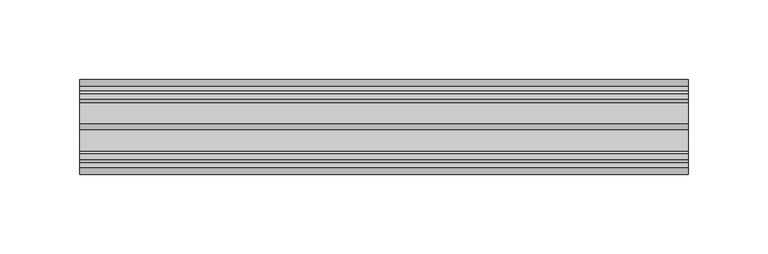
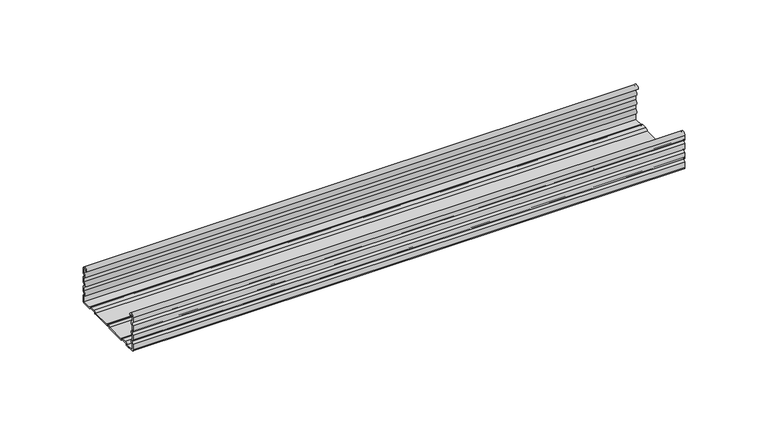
"""IFC4 building model written with IfcOpenShell, lengths in millimetres: proxy geometry, КНАУФ_Профильl ПП 60x27 : КНАУФ_Профильl ПП 60x27."""

from ifc_helpers import new_model, si_unit, point, frame, frame_2d, origin, origin_2d, place, context, project, spatial, polyline, circle_curve, trimmed, segment, composite_curve, outline, extrude, source, transform, mapped, element, save


def mechanical_equipment_167060bf(model_context):
    return source(origin(), model_context, "Body", "SweptSolid", [
        extrude(outline(composite_curve([segment(trimmed(circle_curve(frame_2d((-27.9311762, 24.93)), 1.2688238), [point((-26.6623525, 24.93))], [point((-29.2, 24.93))], True, "CARTESIAN"), True, "CONTINUOUS"), segment(polyline([(-29.2, 24.93), (-29.2, 22.1840918)]), True, "CONTINUOUS"), segment(trimmed(circle_curve(frame_2d((-30.0, 20.25)), 2.0930149), [point((-29.2, 22.1840918))], [point((-29.2, 18.3159082))], False, "CARTESIAN"), True, "CONTINUOUS"), segment(polyline([(-29.2, 18.3159082), (-29.2, 15.4340918)]), True, "CONTINUOUS"), segment(trimmed(circle_curve(frame_2d((-30.0, 13.5)), 2.0930149), [point((-29.2, 15.4340918))], [point((-29.2, 11.5659082))], False, "CARTESIAN"), True, "CONTINUOUS"), segment(polyline([(-29.2, 11.5659082), (-29.2, 8.6840918)]), True, "CONTINUOUS"), segment(trimmed(circle_curve(frame_2d((-30.0, 6.75)), 2.0930149), [point((-29.2, 8.6840918))], [point((-29.2, 4.8159082))], False, "CARTESIAN"), True, "CONTINUOUS"), segment(polyline([(-29.2, 4.8159082), (-29.2, 0.8), (-22.6228064, 0.8)]), True, "CONTINUOUS"), segment(trimmed(circle_curve(frame_2d((-20.7668677, -0.1675758)), 2.0930149), [point((-22.6228064, 0.8))], [point((-20.7668677, 1.9254391))], False, "CARTESIAN"), True, "CONTINUOUS"), segment(polyline([(-20.7668677, 1.9254391), (-17.1471022, 1.9254391)]), True, "CONTINUOUS"), segment(trimmed(circle_curve(frame_2d((-17.1471022, -0.1675758)), 2.0930149), [point((-17.1471022, 1.9254391))], [point((-15.2911636, 0.8))], False, "CARTESIAN"), True, "CONTINUOUS"), segment(polyline([(-15.2911636, 0.8), (-1.9340918, 0.8)]), True, "CONTINUOUS"), segment(trimmed(circle_curve(origin_2d(), 2.0930149), [point((-1.9340918, 0.8))], [point((1.9340918, 0.8))], False, "CARTESIAN"), True, "CONTINUOUS"), segment(polyline([(1.9340918, 0.8), (15.2260576, 0.8)]), True, "CONTINUOUS"), segment(trimmed(circle_curve(frame_2d((17.1471022, -0.2768239)), 2.202263), [point((15.2260576, 0.8))], [point((17.1471022, 1.9254391))], False, "CARTESIAN"), True, "CONTINUOUS"), segment(polyline([(17.1471022, 1.9254391), (20.7668677, 1.9254391)]), True, "CONTINUOUS"), segment(trimmed(circle_curve(frame_2d((20.7668677, -0.1675758)), 2.0930149), [point((20.7668677, 1.9254391))], [point((22.6228064, 0.8))], False, "CARTESIAN"), True, "CONTINUOUS"), segment(polyline([(22.6228064, 0.8), (29.2, 0.8), (29.2, 4.8159082)]), True, "CONTINUOUS"), segment(trimmed(circle_curve(frame_2d((30.0, 6.75)), 2.0930149), [point((29.2, 4.8159082))], [point((29.2, 8.6840918))], False, "CARTESIAN"), True, "CONTINUOUS"), segment(polyline([(29.2, 8.6840918), (29.2, 11.5659082)]), True, "CONTINUOUS"), segment(trimmed(circle_curve(frame_2d((30.0, 13.5)), 2.0930149), [point((29.2, 11.5659082))], [point((29.2, 15.4340918))], False, "CARTESIAN"), True, "CONTINUOUS"), segment(polyline([(29.2, 15.4340918), (29.2, 18.3159082)]), True, "CONTINUOUS"), segment(trimmed(circle_curve(frame_2d((30.0, 20.25)), 2.0930149), [point((29.2, 18.3159082))], [point((29.2, 22.1840918))], False, "CARTESIAN"), True, "CONTINUOUS"), segment(polyline([(29.2, 22.1840918), (29.2, 24.9846466)]), True, "CONTINUOUS"), segment(trimmed(circle_curve(frame_2d((27.9311762, 24.93)), 1.27), [point((29.2, 24.9846466))], [point((26.6611762, 24.93))], True, "CARTESIAN"), True, "CONTINUOUS"), segment(polyline([(26.6611762, 24.93), (25.8611762, 24.93)]), True, "CONTINUOUS"), segment(trimmed(circle_curve(frame_2d((27.9311762, 24.93)), 2.07), [point((25.8611762, 24.93))], [point((30.0, 24.9997726))], False, "CARTESIAN"), True, "CONTINUOUS"), segment(polyline([(30.0, 24.9997726), (30.0, 21.5430149)]), True, "CONTINUOUS"), segment(trimmed(circle_curve(frame_2d((30.0, 20.25)), 1.2930149), [point((30.0, 21.5430149))], [point((30.0, 18.9569851))], True, "CARTESIAN"), True, "CONTINUOUS"), segment(polyline([(30.0, 18.9569851), (30.0, 14.7930149)]), True, "CONTINUOUS"), segment(trimmed(circle_curve(frame_2d((30.0, 13.5)), 1.2930149), [point((30.0, 14.7930149))], [point((30.0, 12.2069851))], True, "CARTESIAN"), True, "CONTINUOUS"), segment(polyline([(30.0, 12.2069851), (30.0, 8.0430149)]), True, "CONTINUOUS"), segment(trimmed(circle_curve(frame_2d((30.0, 6.75)), 1.2930149), [point((30.0, 8.0430149))], [point((30.0, 5.4569851))], True, "CARTESIAN"), True, "CONTINUOUS"), segment(polyline([(30.0, 5.4569851), (30.0, 1.2930149)]), True, "CONTINUOUS"), segment(trimmed(circle_curve(frame_2d((28.7069851, 1.2930149)), 1.2930149), [point((30.0, 1.2930149))], [point((28.7069851, 0.0))], False, "CARTESIAN"), True, "CONTINUOUS"), segment(polyline([(28.7069851, 0.0), (22.0489776, 0.0)]), True, "CONTINUOUS"), segment(trimmed(circle_curve(frame_2d((20.7668677, -0.1675758)), 1.2930149), [point((22.0489776, 0.0))], [point((20.7668677, 1.1254391))], True, "CARTESIAN"), True, "CONTINUOUS"), segment(polyline([(20.7668677, 1.1254391), (17.1471022, 1.1254391)]), True, "CONTINUOUS"), segment(trimmed(circle_curve(frame_2d((17.1471022, -0.2768239)), 1.402263), [point((17.1471022, 1.1254391))], [point((15.772435, 0.0))], True, "CARTESIAN"), True, "CONTINUOUS"), segment(polyline([(15.772435, 0.0), (1.2930149, 0.0)]), True, "CONTINUOUS"), segment(trimmed(circle_curve(origin_2d(), 1.2930149), [point((1.2930149, 0.0))], [point((-1.2930149, 0.0))], True, "CARTESIAN"), True, "CONTINUOUS"), segment(polyline([(-1.2930149, 0.0), (-15.8649924, 0.0)]), True, "CONTINUOUS"), segment(trimmed(circle_curve(frame_2d((-17.1471022, -0.1675758)), 1.2930149), [point((-15.8649924, 0.0))], [point((-17.1471022, 1.1254391))], True, "CARTESIAN"), True, "CONTINUOUS"), segment(polyline([(-17.1471022, 1.1254391), (-20.7668677, 1.1254391)]), True, "CONTINUOUS"), segment(trimmed(circle_curve(frame_2d((-20.7668677, -0.1675758)), 1.2930149), [point((-20.7668677, 1.1254391))], [point((-22.0489776, 0.0))], True, "CARTESIAN"), True, "CONTINUOUS"), segment(polyline([(-22.0489776, 0.0), (-28.7069851, 0.0)]), True, "CONTINUOUS"), segment(trimmed(circle_curve(frame_2d((-28.7069851, 1.2930149)), 1.2930149), [point((-28.7069851, 0.0))], [point((-30.0, 1.2930149))], False, "CARTESIAN"), True, "CONTINUOUS"), segment(polyline([(-30.0, 1.2930149), (-30.0, 5.4569851)]), True, "CONTINUOUS"), segment(trimmed(circle_curve(frame_2d((-30.0, 6.75)), 1.2930149), [point((-30.0, 5.4569851))], [point((-30.0, 8.0430149))], True, "CARTESIAN"), True, "CONTINUOUS"), segment(polyline([(-30.0, 8.0430149), (-30.0, 12.2069851)]), True, "CONTINUOUS"), segment(trimmed(circle_curve(frame_2d((-30.0, 13.5)), 1.2930149), [point((-30.0, 12.2069851))], [point((-30.0, 14.7930149))], True, "CARTESIAN"), True, "CONTINUOUS"), segment(polyline([(-30.0, 14.7930149), (-30.0, 18.9569851)]), True, "CONTINUOUS"), segment(trimmed(circle_curve(frame_2d((-30.0, 20.25)), 1.2930149), [point((-30.0, 18.9569851))], [point((-30.0, 21.5430149))], True, "CARTESIAN"), True, "CONTINUOUS"), segment(polyline([(-30.0, 21.5430149), (-30.0, 24.93)]), True, "CONTINUOUS"), segment(trimmed(circle_curve(frame_2d((-27.9311762, 24.93)), 2.0688238), [point((-30.0, 24.93))], [point((-25.8623525, 24.93))], False, "CARTESIAN"), True, "CONTINUOUS"), segment(polyline([(-25.8623525, 24.93), (-26.6623525, 24.93)]), True, "CONTINUOUS")], self_intersect=False)), frame((0.0, 0.0, 0.0), z_axis=(1.0, 0.0, 0.0), x_axis=(0.0, 1.0, 0.0)), (0.0, 0.0, 1.0), 383.0),
    ])


if __name__ == "__main__":
    model = new_model("IFC4")
    model_context = context("Model", 3, world=origin())
    ifc_project = project(units=[si_unit("LENGTHUNIT", "METRE", prefix="MILLI")], contexts=[model_context])
    site = spatial("IfcSite", under=ifc_project)
    building = spatial("IfcBuilding", under=site)
    placement = place(None, origin())
    mechanical_equipment_shape = mechanical_equipment_167060bf(model_context)
    element("IfcBuildingElementProxy", 1, Name="КНАУФ_Профильl ПП 60x27 : КНАУФ_Профильl ПП 60x27", ObjectType="КНАУФ_Профильl ПП 60x27 : КНАУФ_Профильl ПП 60x27", at=placement, inside=building, context=model_context, shape_type="MappedRepresentation", body=[
        mapped(mechanical_equipment_shape, transform((0.0, 0.0, 0.0), x_axis=(1.0, 0.0, 0.0), y_axis=(0.0, 1.0, 0.0), z_axis=(0.0, 0.0, 1.0))),
    ])
    save(model, "model.ifc")
